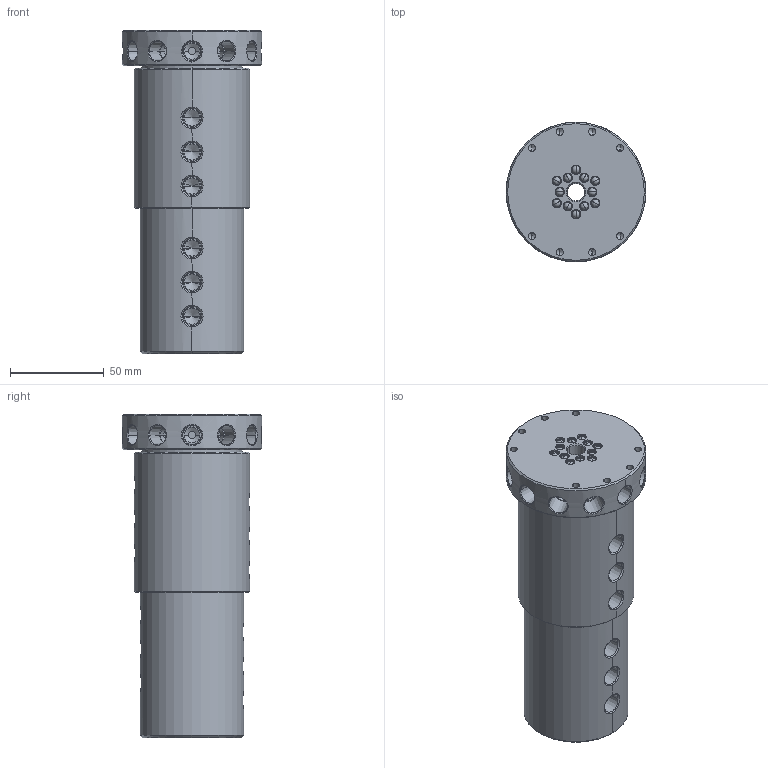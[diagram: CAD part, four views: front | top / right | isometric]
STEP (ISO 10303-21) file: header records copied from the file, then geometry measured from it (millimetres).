
FILE_DESCRIPTION (( 'STEP AP214' ), '1' );
FILE_NAME ('LT(M)-21121.STEP', '2013-01-03T17:22:41', ( '' ), ( '' ), 'SwSTEP 2.0', 'SolidWorks 2011', '' );
FILE_SCHEMA (( 'AUTOMOTIVE_DESIGN' ));
Length unit declared in the file: inch
Products named in the file (1): LT(M)-21121
Bounding box: 74.6 x 74.6 x 172.87 mm (x, y, z)
Volume: 456637.2 mm3; surface area: 60064.1 mm2
Topology: 1 solids, 1 shells, 453 faces, 1116 edges, 674 vertices
Faces by surface type: cylinder 176, cone 136, plane 67, bspline 48, sphere 24, torus 2
Entity records: 19621 total; most frequent: CARTESIAN_POINT 7890, DIRECTION 2070, ORIENTED_EDGE 2040, EDGE_CURVE 1020, AXIS2_PLACEMENT_3D 864, VERTEX_POINT 650, EDGE_LOOP 536, CIRCLE 458
